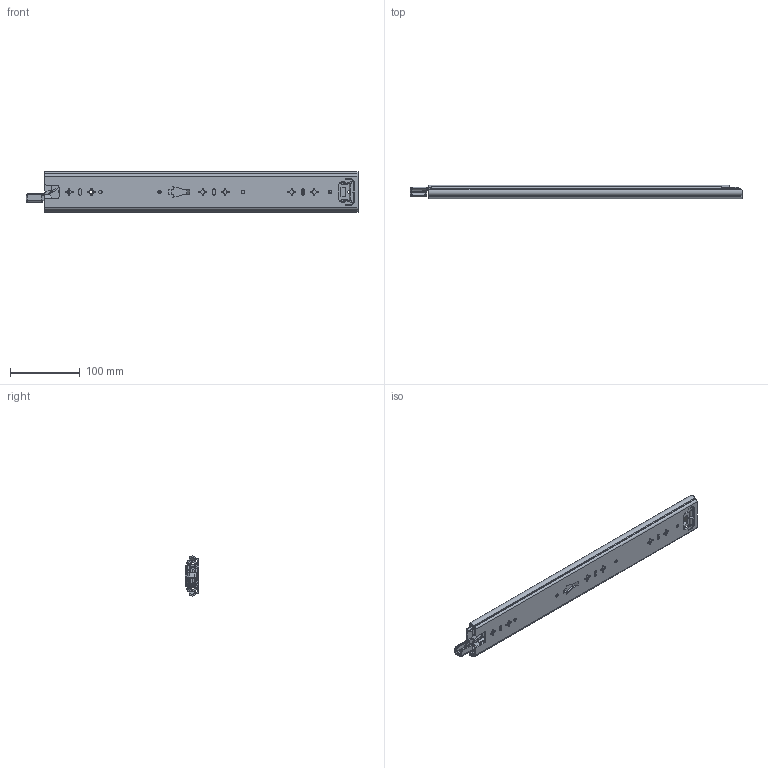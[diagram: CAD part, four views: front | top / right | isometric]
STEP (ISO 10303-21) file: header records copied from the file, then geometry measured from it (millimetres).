
FILE_DESCRIPTION((''),'2;1');
FILE_NAME('KP-57-01ZUZHUANGTU-18_ASM','2022-08-18T',('jishu015'),(''),'PRO/ENGINEER BY PARAMETRIC TECHNOLOGY CORPORATION, 2010280','PRO/ENGINEER BY PARAMETRIC TECHNOLOGY CORPORATION, 2010280','');
FILE_SCHEMA(('CONFIG_CONTROL_DESIGN'));
Length unit declared in the file: millimetre
Products named in the file (22): KP-57-01WEIKE-20_; 1057WEIJIAO_________________; WAIKE________________ASM; KP-57-01ZHONGGUI-26____; ZHONGGUIPEIJIAN-20_; ZHONGGUISUOKOU-18; KP-57-01ZHONGGUI-26_____ASM; 1057XIAOZHUJIA_________________; 1057-5-6GANZHU_________________; 1057XIAOZHUJIA-14GE26_____ASM; KP-57-01NEIGUI-22__; PJ-57-08_______________; DIAOPIAN-11_______________; 50XINSUOKOU-1_______________; TANHUANG_______________; 1053-3SBANJI122_____________; JIAO11_____________; KP-57-01NEIGUI-22___ASM; 1053ZHUTIAO-275____; 53-5-6GANZHU1_; 1053ZHUTIAO-175MM111_ASM; KP-57-01ZUZHUANGTU-18_ASM
Assembly tree (55 placements, depth 3):
  KP-57-01ZUZHUANGTU-18_ASM
    WAIKE________________ASM
      KP-57-01WEIKE-20_
      1057WEIJIAO_________________
    KP-57-01ZHONGGUI-26_____ASM
      KP-57-01ZHONGGUI-26____
      ZHONGGUIPEIJIAN-20_
      ZHONGGUISUOKOU-18
    1057XIAOZHUJIA-14GE26_____ASM
      1057XIAOZHUJIA_________________
      1057-5-6GANZHU_________________  x28
    KP-57-01NEIGUI-22___ASM
      KP-57-01NEIGUI-22__
      PJ-57-08_______________
      DIAOPIAN-11_______________
      50XINSUOKOU-1_______________
      TANHUANG_______________
      1053-3SBANJI122_____________
      JIAO11_____________
    1053ZHUTIAO-175MM111_ASM  x2
      1053ZHUTIAO-275____
      53-5-6GANZHU1_
Bounding box: 476.92 x 19.01 x 57.67 mm (x, y, z)
Volume: 195516.4 mm3; surface area: 211806.4 mm2
Topology: 59 solids, 59 shells, 1790 faces, 5096 edges, 3205 vertices
Faces by surface type: plane 762, cylinder 739, sphere 95, bspline 86, cone 60, torus 25, extrusion 23
Entity records: 59556 total; most frequent: CARTESIAN_POINT 15237, ORIENTED_EDGE 9376, DIRECTION 9082, EDGE_CURVE 4688, AXIS2_PLACEMENT_3D 3136, VERTEX_POINT 3025, VECTOR 2810, LINE 2787
